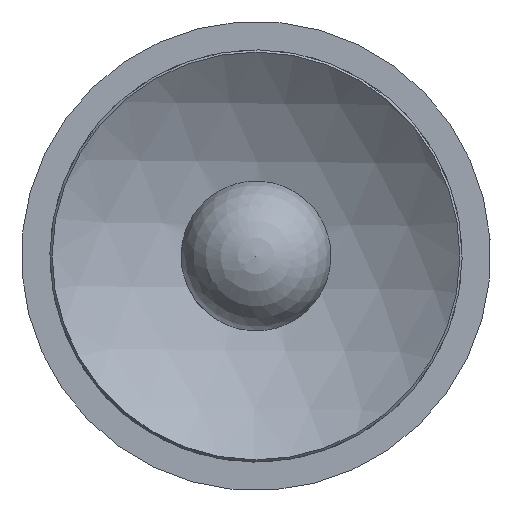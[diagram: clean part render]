
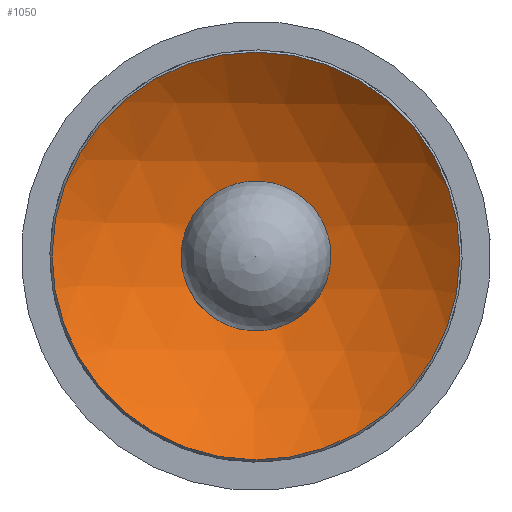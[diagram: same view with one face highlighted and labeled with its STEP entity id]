
A CAD part, front view. The second image highlights one B-rep face of the part: STEP entity #1050.
In plain terms, the highlighted spherical face has radius 90 mm.
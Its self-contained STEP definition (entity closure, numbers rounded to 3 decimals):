
#28=SPHERICAL_SURFACE('',#1217,90.);
#35=FACE_BOUND('',#287,.T.);
#203=FACE_OUTER_BOUND('',#286,.T.);
#286=EDGE_LOOP('',(#760));
#287=EDGE_LOOP('',(#761));
#365=CIRCLE('',#1212,60.832);
#367=CIRCLE('',#1216,14.5);
#455=VERTEX_POINT('',#1819);
#457=VERTEX_POINT('',#1826);
#561=EDGE_CURVE('',#455,#455,#365,.T.);
#564=EDGE_CURVE('',#457,#457,#367,.T.);
#760=ORIENTED_EDGE('',*,*,#561,.F.);
#761=ORIENTED_EDGE('',*,*,#564,.T.);
#1050=ADVANCED_FACE('',(#203,#35),#28,.F.);
#1212=AXIS2_PLACEMENT_3D('',#1821,#1501,#1502);
#1216=AXIS2_PLACEMENT_3D('',#1828,#1510,#1511);
#1217=AXIS2_PLACEMENT_3D('',#1829,#1512,#1513);
#1501=DIRECTION('center_axis',(0.,1.,0.));
#1502=DIRECTION('ref_axis',(1.,0.,-0.01));
#1510=DIRECTION('center_axis',(0.,1.,0.));
#1511=DIRECTION('ref_axis',(1.,0.,-0.01));
#1512=DIRECTION('center_axis',(0.01,0.,1.));
#1513=DIRECTION('ref_axis',(1.,0.,-0.01));
#1819=CARTESIAN_POINT('',(60.829,-1012.446,-0.608));
#1821=CARTESIAN_POINT('Origin',(0.,-1012.446,
0.));
#1826=CARTESIAN_POINT('',(14.499,-989.95,-0.145));
#1828=CARTESIAN_POINT('Origin',(0.,-989.95,
0.));
#1829=CARTESIAN_POINT('Origin',(0.,-1078.775,
0.));
